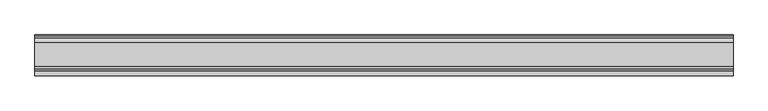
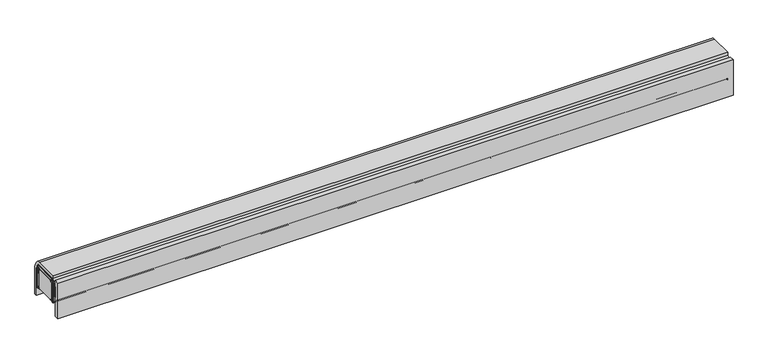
"""IFC4 building model written with IfcOpenShell, lengths in millimetres: proxy geometry, Windows-Blinds Schenker Stores Stores a lamelles Economy EC 70 : Windows-Blinds Schenker Stores Stores a lamelles Economy EC 75."""

from ifc_helpers import new_model, si_unit, point, frame, frame_2d, origin, place, context, project, spatial, polyline, circle_curve, trimmed, segment, composite_curve, outline, extrude, source, transform, mapped, element, save


def generic_models_c7dcbf66(model_context):
    return source(origin(), model_context, "Body", "SweptSolid", [
        extrude(outline(composite_curve([segment(polyline([(-91.5000059, 2487.3022268), (-18.4999378, 2487.3022268)]), True, "CONTINUOUS"), segment(trimmed(circle_curve(frame_2d((-18.4999378, 2481.3023024)), 5.9999245), [point((-18.4999378, 2487.3022268))], [point((-12.5000133, 2481.3023008))], False, "CARTESIAN"), True, "CONTINUOUS"), segment(polyline([(-12.5000133, 2481.3023008), (-12.5000315, 2413.0521071)]), True, "CONTINUOUS"), segment(trimmed(circle_curve(frame_2d((-15.0000242, 2413.0521078)), 2.4999928), [point((-12.5000315, 2413.0521071))], [point((-15.0000242, 2410.5521151))], False, "CARTESIAN"), True, "CONTINUOUS"), segment(polyline([(-15.0000242, 2410.5521151), (-17.64322, 2410.5521151), (-20.4995409, 2412.5521383), (-20.4995409, 2413.5522226), (-18.4995426, 2413.5522226), (-18.4995426, 2412.5521383), (-14.5000162, 2412.5521383), (-14.5000162, 2481.312586)]), True, "CONTINUOUS"), segment(trimmed(circle_curve(frame_2d((-18.5452534, 2481.1858094)), 4.0472233), [point((-14.5000162, 2481.312586))], [point((-21.374557, 2484.0797784))], True, "CARTESIAN"), True, "CONTINUOUS"), segment(trimmed(circle_curve(frame_2d((-33.0827561, 2496.0555752)), 16.7481829), [point((-21.374557, 2484.0797784))], [point((-29.7015124, 2479.6522577))], False, "CARTESIAN"), True, "CONTINUOUS"), segment(polyline([(-29.7015124, 2479.6522577), (-80.2984313, 2479.6522577)]), True, "CONTINUOUS"), segment(trimmed(circle_curve(frame_2d((-76.9171877, 2496.0555752)), 16.7481829), [point((-80.2984313, 2479.6522577))], [point((-88.6253867, 2484.0797784))], False, "CARTESIAN"), True, "CONTINUOUS"), segment(trimmed(circle_curve(frame_2d((-91.4546904, 2481.1858094)), 4.0472233), [point((-88.6253867, 2484.0797784))], [point((-95.4999276, 2481.312586))], True, "CARTESIAN"), True, "CONTINUOUS"), segment(polyline([(-95.4999276, 2481.312586), (-95.4999276, 2412.5521383), (-91.5004011, 2412.5521383), (-91.5004011, 2413.5522226), (-89.5004028, 2413.5522226), (-89.5004028, 2412.5521383), (-92.3567237, 2410.5521151), (-94.9999195, 2410.5521151)]), True, "CONTINUOUS"), segment(trimmed(circle_curve(frame_2d((-94.9999195, 2413.0521078)), 2.4999928), [point((-94.9999195, 2410.5521151))], [point((-97.4999122, 2413.0521071))], False, "CARTESIAN"), True, "CONTINUOUS"), segment(polyline([(-97.4999122, 2413.0521071), (-97.4999304, 2481.3023008)]), True, "CONTINUOUS"), segment(trimmed(circle_curve(frame_2d((-91.5000059, 2481.3023024)), 5.9999245), [point((-97.4999304, 2481.3023008))], [point((-91.5000059, 2487.3022268))], False, "CARTESIAN"), True, "CONTINUOUS")], self_intersect=False)), frame((-1050.0, 0.0, 0.0), z_axis=(1.0, 0.0, 0.0), x_axis=(0.0, 1.0, 0.0)), (0.0, 0.0, 1.0), 2100.0),
        extrude(outline(composite_curve([segment(polyline([(-81.8291141, 2477.7041208), (-27.8291035, 2477.7041208)]), True, "CONTINUOUS"), segment(trimmed(circle_curve(frame_2d((-27.8291035, 2472.7041353)), 4.9999855), [point((-27.8291035, 2477.7041208))], [point((-22.829118, 2472.7041341))], False, "CARTESIAN"), True, "CONTINUOUS"), segment(polyline([(-22.829118, 2472.7041341), (-22.8291317, 2418.7040871)]), True, "CONTINUOUS"), segment(trimmed(circle_curve(frame_2d((-27.8291172, 2418.7040884)), 4.9999855), [point((-22.8291317, 2418.7040871))], [point((-27.8291172, 2413.7041029))], False, "CARTESIAN"), True, "CONTINUOUS"), segment(polyline([(-27.8291172, 2413.7041029), (-81.82913, 2413.7041029)]), True, "CONTINUOUS"), segment(trimmed(circle_curve(frame_2d((-81.82913, 2418.704102)), 4.9999991), [point((-81.82913, 2413.7041029))], [point((-86.8291292, 2418.7041031))], False, "CARTESIAN"), True, "CONTINUOUS"), segment(polyline([(-86.8291292, 2418.7041031), (-86.8291178, 2472.7041182)]), True, "CONTINUOUS"), segment(trimmed(circle_curve(frame_2d((-81.8291141, 2472.7041172)), 5.0000037), [point((-86.8291178, 2472.7041182))], [point((-81.8291141, 2477.7041208))], False, "CARTESIAN"), True, "CONTINUOUS")], self_intersect=False)), frame((-1050.0, 0.0, 0.0), z_axis=(1.0, 0.0, 0.0), x_axis=(0.0, 1.0, 0.0)), (0.0, 0.0, 1.0), 2100.0),
        extrude(outline(composite_curve([segment(trimmed(circle_curve(frame_2d((-24.0793214, 2477.5003735)), 2.3498735), [point((-24.0793214, 2479.850247))], [point((-21.8998782, 2478.3789705))], False, "CARTESIAN"), True, "CONTINUOUS"), segment(polyline([(-21.8998782, 2478.3789705), (-15.5031804, 2462.8873168)]), True, "CONTINUOUS"), segment(trimmed(circle_curve(frame_2d((-20.6787692, 2460.7502514)), 5.5994435), [point((-15.5031804, 2462.8873168))], [point((-15.0793257, 2460.7502501))], False, "CARTESIAN"), True, "CONTINUOUS"), segment(polyline([(-15.0793257, 2460.7502501), (-15.079337, 2414.3501977)]), True, "CONTINUOUS"), segment(trimmed(circle_curve(frame_2d((-16.6793473, 2414.3501981)), 1.6000103), [point((-15.079337, 2414.3501977))], [point((-18.253021, 2414.0610892))], False, "CARTESIAN"), True, "CONTINUOUS"), segment(polyline([(-18.253021, 2414.0610892), (-19.1580659, 2418.9874179), (-18.3568032, 2419.1000307), (-17.6696583, 2414.2108569)]), True, "CONTINUOUS"), segment(trimmed(circle_curve(frame_2d((-16.6794125, 2414.3500302)), 0.999978), [point((-17.6696583, 2414.2108569))], [point((-15.6794344, 2414.35003))], True, "CARTESIAN"), True, "CONTINUOUS"), segment(polyline([(-15.6794344, 2414.35003), (-15.6794231, 2460.7502501)]), True, "CONTINUOUS"), segment(trimmed(circle_curve(frame_2d((-20.6791836, 2460.7502513)), 4.9997605), [point((-15.6794231, 2460.7502501))], [point((-16.0422166, 2462.6200487))], True, "CARTESIAN"), True, "CONTINUOUS"), segment(polyline([(-16.0422166, 2462.6200487), (-22.4740091, 2478.1975013)]), True, "CONTINUOUS"), segment(trimmed(circle_curve(frame_2d((-24.0793214, 2477.4999796)), 1.750304), [point((-22.4740091, 2478.1975013))], [point((-24.0793214, 2479.2502836))], True, "CARTESIAN"), True, "CONTINUOUS"), segment(polyline([(-24.0793214, 2479.2502836), (-86.0793274, 2479.2502836)]), True, "CONTINUOUS"), segment(trimmed(circle_curve(frame_2d((-86.0793274, 2477.4999796)), 1.750304), [point((-86.0793274, 2479.2502836))], [point((-87.6846397, 2478.1975013))], True, "CARTESIAN"), True, "CONTINUOUS"), segment(polyline([(-87.6846397, 2478.1975013), (-94.1164322, 2462.6200489)]), True, "CONTINUOUS"), segment(trimmed(circle_curve(frame_2d((-89.4794652, 2460.7502514)), 4.9997605), [point((-94.1164322, 2462.6200489))], [point((-94.4792258, 2460.7502502))], True, "CARTESIAN"), True, "CONTINUOUS"), segment(polyline([(-94.4792258, 2460.7502502), (-94.4792144, 2414.35003)]), True, "CONTINUOUS"), segment(trimmed(circle_curve(frame_2d((-93.4792364, 2414.3500302)), 0.999978), [point((-94.4792144, 2414.35003))], [point((-92.4889905, 2414.2108569))], True, "CARTESIAN"), True, "CONTINUOUS"), segment(polyline([(-92.4889905, 2414.2108569), (-91.8018456, 2419.1000307), (-91.0005829, 2418.9874179), (-91.9056278, 2414.0610892)]), True, "CONTINUOUS"), segment(trimmed(circle_curve(frame_2d((-93.4793015, 2414.3501981)), 1.6000103), [point((-91.9056278, 2414.0610892))], [point((-95.0793118, 2414.3501977))], False, "CARTESIAN"), True, "CONTINUOUS"), segment(polyline([(-95.0793118, 2414.3501977), (-95.0793231, 2460.7502501)]), True, "CONTINUOUS"), segment(trimmed(circle_curve(frame_2d((-89.4798796, 2460.7502514)), 5.5994435), [point((-95.0793231, 2460.7502501))], [point((-94.6554684, 2462.8873168))], False, "CARTESIAN"), True, "CONTINUOUS"), segment(polyline([(-94.6554684, 2462.8873168), (-88.2587706, 2478.3789705)]), True, "CONTINUOUS"), segment(trimmed(circle_curve(frame_2d((-86.0793274, 2477.5003735)), 2.3498735), [point((-88.2587706, 2478.3789705))], [point((-86.0793274, 2479.850247))], False, "CARTESIAN"), True, "CONTINUOUS"), segment(polyline([(-86.0793274, 2479.850247), (-24.0793214, 2479.850247)]), True, "CONTINUOUS")], self_intersect=False)), frame((-1050.0, 0.0, 0.0), z_axis=(1.0, 0.0, 0.0), x_axis=(0.0, 1.0, 0.0)), (0.0, 0.0, 1.0), 2100.0),
        extrude(outline(composite_curve([segment(polyline([(-20.9923414, 2489.5002394), (-20.9923414, 2487.5002161), (-93.1938905, 2487.5002161)]), True, "CONTINUOUS"), segment(trimmed(circle_curve(frame_2d((-93.1938905, 2479.5005157)), 7.9997004), [point((-93.1938905, 2487.5002161))], [point((-100.1218637, 2483.5003149))], True, "CARTESIAN"), True, "CONTINUOUS"), segment(polyline([(-100.1218637, 2483.5003149), (-106.4271611, 2472.5790339)]), True, "CONTINUOUS"), segment(trimmed(circle_curve(frame_2d((-99.4988314, 2468.5790289)), 8.000112), [point((-106.4271611, 2472.5790339))], [point((-107.4989434, 2468.5790289))], True, "CARTESIAN"), True, "CONTINUOUS"), segment(polyline([(-107.4989434, 2468.5790289), (-107.4989434, 2438.0001852), (-109.4940267, 2438.0001852), (-109.4940267, 2468.2769728)]), True, "CONTINUOUS"), segment(trimmed(circle_curve(frame_2d((-99.5010611, 2468.5803472)), 9.9975696), [point((-109.4940267, 2468.2769728))], [point((-108.1592183, 2473.5791182))], False, "CARTESIAN"), True, "CONTINUOUS"), segment(polyline([(-108.1592183, 2473.5791182), (-101.8539553, 2484.5001943)]), True, "CONTINUOUS"), segment(trimmed(circle_curve(frame_2d((-93.1936393, 2479.500177)), 10.0000624), [point((-101.8539553, 2484.5001943))], [point((-93.1936393, 2489.5002394))], False, "CARTESIAN"), True, "CONTINUOUS"), segment(polyline([(-93.1936393, 2489.5002394), (-20.9923414, 2489.5002394)]), True, "CONTINUOUS")], self_intersect=False)), frame((-1050.0, 0.0, 0.0), z_axis=(1.0, 0.0, 0.0), x_axis=(0.0, 1.0, 0.0)), (0.0, 0.0, 1.0), 2100.0),
        extrude(outline(polyline([(1050.0, -109.4987058), (1050.0, -123.4990459), (-1050.0, -123.4990459), (-1050.0, -109.4987058), (1050.0, -109.4987058)])), frame((0.0, 0.0, 2375.7407242), z_axis=(0.0, 0.0, 1.0), x_axis=(1.0, 0.0, 0.0)), (0.0, 0.0, 1.0), 116.7597336),
        extrude(outline(composite_curve([segment(polyline([(-94.9999951, 2500.0), (-22.8052647, 2500.0)]), True, "CONTINUOUS"), segment(trimmed(circle_curve(frame_2d((-22.8052647, 2483.5001807)), 16.4998193), [point((-22.8052647, 2500.0))], [point((-8.5159889, 2491.7500675))], False, "CARTESIAN"), True, "CONTINUOUS"), segment(polyline([(-8.5159889, 2491.7500675), (-2.2106915, 2480.8289318)]), True, "CONTINUOUS"), segment(trimmed(circle_curve(frame_2d((-16.5009378, 2472.5784848)), 16.5009398), [point((-2.2106915, 2480.8289318))], [point((2e-06, 2472.5784798))], False, "CARTESIAN"), True, "CONTINUOUS"), segment(polyline([(2e-06, 2472.5784798), (-2.52e-05, 2382.50005), (-8.5000242, 2382.50005), (-8.5000015, 2472.578854)]), True, "CONTINUOUS"), segment(trimmed(circle_curve(frame_2d((-16.4995271, 2472.578856)), 7.9995256), [point((-8.5000015, 2472.578854))], [point((-9.5717283, 2476.5786077))], True, "CARTESIAN"), True, "CONTINUOUS"), segment(polyline([(-9.5717283, 2476.5786077), (-15.8772203, 2487.5000805)]), True, "CONTINUOUS"), segment(trimmed(circle_curve(frame_2d((-22.8054146, 2483.5001004)), 7.9999824), [point((-15.8772203, 2487.5000805))], [point((-22.8054146, 2491.5000828))], True, "CARTESIAN"), True, "CONTINUOUS"), segment(polyline([(-22.8054146, 2491.5000828), (-94.9999951, 2491.5000828), (-94.9999951, 2500.0)]), True, "CONTINUOUS")], self_intersect=False)), frame((-1050.0, 0.0, 0.0), z_axis=(1.0, 0.0, 0.0), x_axis=(0.0, 1.0, 0.0)), (0.0, 0.0, 1.0), 2100.0),
    ])


if __name__ == "__main__":
    model = new_model("IFC4")
    model_context = context("Model", 3, world=origin())
    ifc_project = project(units=[si_unit("LENGTHUNIT", "METRE", prefix="MILLI")], contexts=[model_context])
    site = spatial("IfcSite", under=ifc_project)
    building = spatial("IfcBuilding", under=site)
    placement = place(None, origin())
    generic_models_shape = generic_models_c7dcbf66(model_context)
    element("IfcBuildingElementProxy", 1, Name="Windows-Blinds Schenker Stores Stores a lamelles Economy EC 70 : Windows-Blinds Schenker Stores Stores a lamelles Economy EC 75", ObjectType="Windows-Blinds Schenker Stores Stores a lamelles Economy EC 70 : Windows-Blinds Schenker Stores Stores a lamelles Economy EC 75", at=placement, inside=building, context=model_context, shape_type="MappedRepresentation", body=[
        mapped(generic_models_shape, transform((0.0, 0.0, 0.0), x_axis=(1.0, 0.0, 0.0), y_axis=(0.0, 1.0, 0.0), z_axis=(0.0, 0.0, 1.0))),
    ])
    save(model, "model.ifc")
